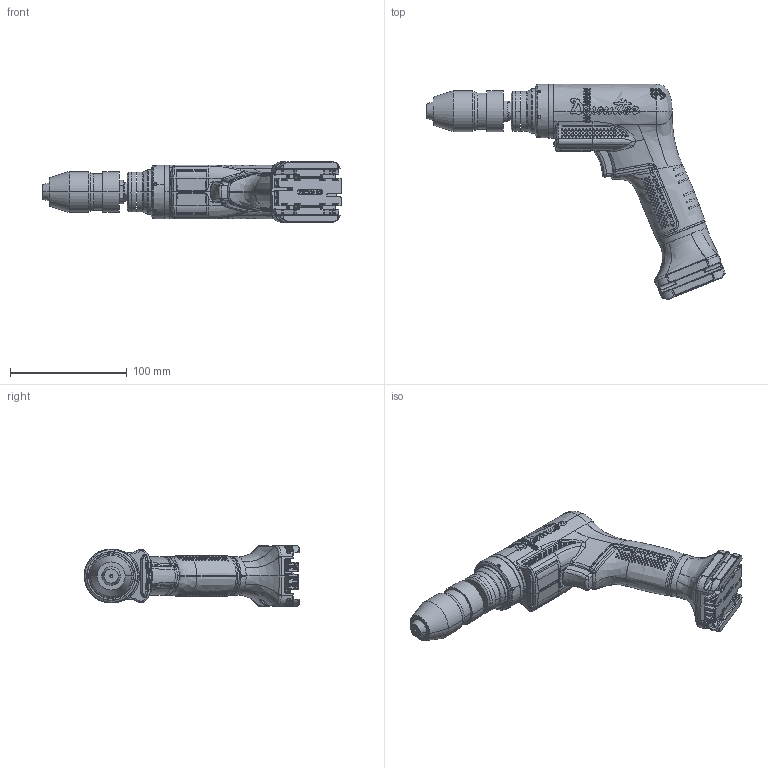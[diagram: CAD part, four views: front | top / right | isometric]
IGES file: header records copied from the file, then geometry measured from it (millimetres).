
Start section:  PTC IGES file: 6151762570_dim.igs
Global section: file name: 6151762570_dim.igs; native system: Creo Parametric by PTC Inc.; preprocessor: 2019080; author: gre_svc_itools; organization: Unknown; date: 20210217.080824; units: millimetre
Bounding box: 255.52 x 184.36 x 52 mm (x, y, z)
Surface area: 63646.6 mm2 (no closed solid volume)
Topology: 0 solids, 0 shells, 1697 faces, 9725 edges, 9719 vertices
Faces by surface type: bspline 1157, revolution 514, extrusion 26
